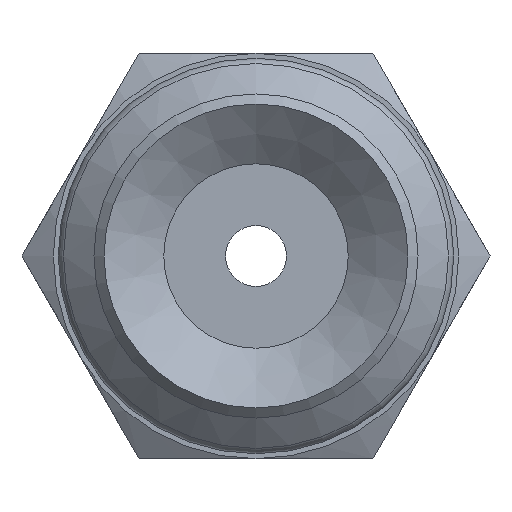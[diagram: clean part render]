
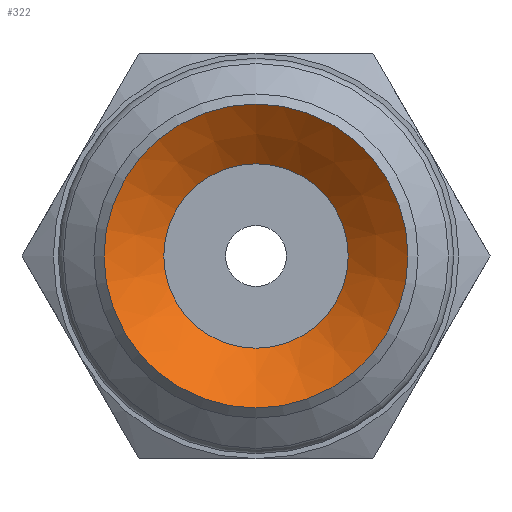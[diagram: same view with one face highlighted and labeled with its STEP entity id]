
A CAD part, front view. The second image highlights one B-rep face of the part: STEP entity #322.
In plain terms, the highlighted conical face has half-angle 52 degrees and reference radius 1.82 mm.
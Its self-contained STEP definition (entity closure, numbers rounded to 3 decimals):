
#322=ADVANCED_FACE('',(#475,#476),#477,.F.);
#475=FACE_BOUND('',#635,.T.);
#476=FACE_OUTER_BOUND('',#636,.T.);
#477=CONICAL_SURFACE('',#637,1.82,0.908);
#635=EDGE_LOOP('',(#946));
#636=EDGE_LOOP('',(#947));
#637=AXIS2_PLACEMENT_3D('',#948,#949,#950);
#946=ORIENTED_EDGE('',*,*,#1039,.F.);
#947=ORIENTED_EDGE('',*,*,#1035,.T.);
#948=CARTESIAN_POINT('',(0.0,6.889,0.0));
#949=DIRECTION('',(-0.0,-1.0,0.));
#950=DIRECTION('',(0.0,0.,-1.0));
#1035=EDGE_CURVE('',#1166,#1166,#1167,.T.);
#1039=EDGE_CURVE('',#1174,#1174,#1175,.T.);
#1166=VERTEX_POINT('',#1338);
#1167=CIRCLE('',#1339,3.0);
#1174=VERTEX_POINT('',#1346);
#1175=CIRCLE('',#1347,1.82);
#1338=CARTESIAN_POINT('',(0.0,5.967,-3.0));
#1339=AXIS2_PLACEMENT_3D('',#1495,#1496,#1497);
#1346=CARTESIAN_POINT('',(0.0,6.889,-1.82));
#1347=AXIS2_PLACEMENT_3D('',#1507,#1508,#1509);
#1495=CARTESIAN_POINT('',(0.0,5.967,0.0));
#1496=DIRECTION('',(0.0,-1.0,0.));
#1497=DIRECTION('',(0.0,0.,-1.0));
#1507=CARTESIAN_POINT('',(0.0,6.889,0.0));
#1508=DIRECTION('',(0.0,-1.0,0.));
#1509=DIRECTION('',(0.0,0.,-1.0));
